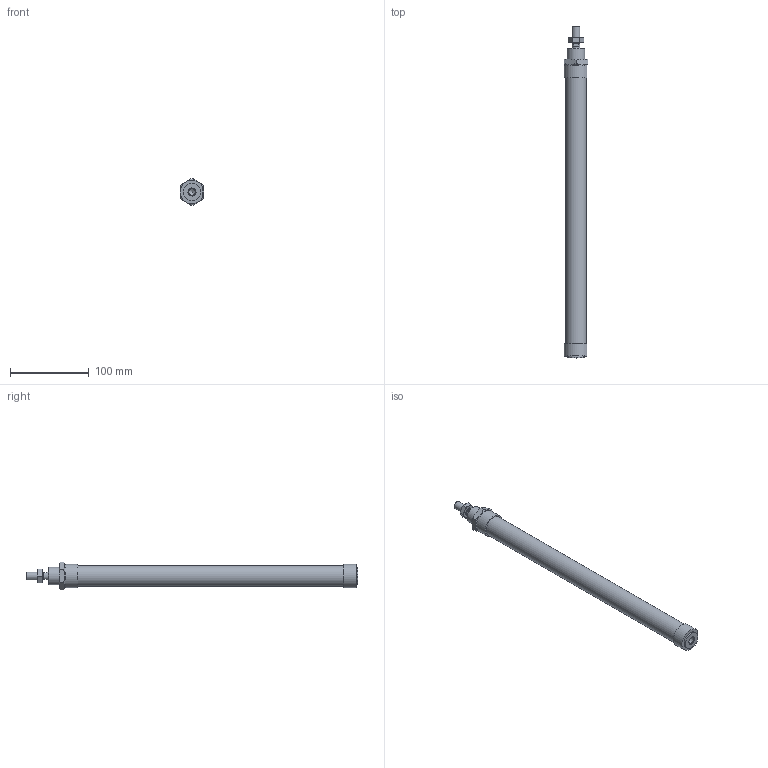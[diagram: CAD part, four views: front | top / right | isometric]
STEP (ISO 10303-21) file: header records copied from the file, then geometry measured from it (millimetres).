
FILE_DESCRIPTION((''),'2;1');
FILE_NAME('I:\Area Tecnica\Disegni\VARIE-3D\Componenti\1280\1281_##_####_#\1281_25_0300.iam.stp','2009-06-04T09:40:36',(''),(''),'Autodesk Inventor 2010','Autodesk Inventor 2010','');
FILE_SCHEMA(('AUTOMOTIVE_DESIGN { 1 0 10303 214 1 1 1 1 }'));
Length unit declared in the file: millimetre
Products named in the file (5): 1281_25_0300; C1281_25_300; S1280_25_300; 1200_25_05; 1200_25_06
Assembly tree (4 placements, depth 2):
  1281_25_0300
    C1281_25_300
    S1280_25_300
    1200_25_05
    1200_25_06
Bounding box: 30 x 420.5 x 34.64 mm (x, y, z)
Volume: 221202.8 mm3; surface area: 59974.7 mm2
Topology: 4 solids, 4 shells, 86 faces, 185 edges, 112 vertices
Faces by surface type: plane 36, cone 26, bspline 15, cylinder 9
Full cylindrical faces by diameter (mm): 8.8 x1, 10 x3, 22 x2, 26.5 x1
Entity records: 2529 total; most frequent: CARTESIAN_POINT 690, DIRECTION 332, ORIENTED_EDGE 310, EDGE_CURVE 155, AXIS2_PLACEMENT_3D 148, EDGE_LOOP 120, VERTEX_POINT 103, STYLED_ITEM 90
